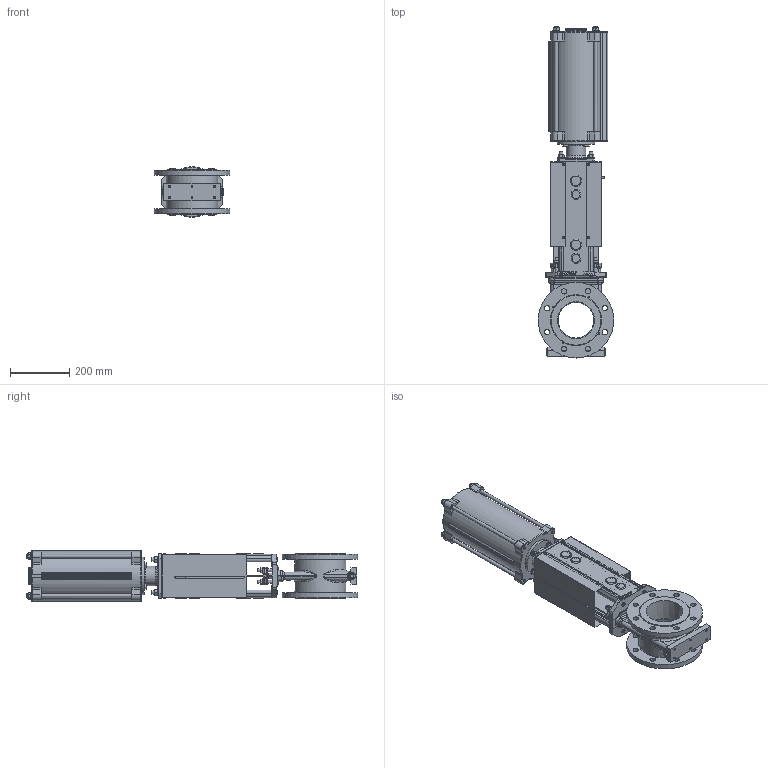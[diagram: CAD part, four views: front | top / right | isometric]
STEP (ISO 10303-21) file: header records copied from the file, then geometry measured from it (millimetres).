
FILE_DESCRIPTION(/* description */ ('','CAx-IF Rec.Pracs.---Representation and Presentation of Product Manufacturing Information (PMI)---4.0---2014-10-13'),/* implementation_level */ '2;1');
FILE_NAME(/* name */ 'F:\Emir\3D-block special\SLV\SLF-DN125-PN10-FRSC160-215_Shrinkwrap_1.stp',/* time_stamp */ '2018-09-04T13:34:30+02:00',/* author */ ('emimus'),/* organization */ (''),/* preprocessor_version */ 'ST-DEVELOPER v17.2',/* originating_system */ 'Autodesk Inventor 2019',/* authorisation */ '');
FILE_SCHEMA (('AP242_MANAGED_MODEL_BASED_3D_ENGINEERING_MIM_LF { 1 0 10303 442 1 1 4 }'));
Products named in the file (1): SLF-DN125-PN10-FRSC160-215_Shrinkwrap_1
Bounding box: 254 x 1116.5 x 170 mm (x, y, z)
Volume: 7603260 mm3; surface area: 2177926.6 mm2
Topology: 2 solids, 2 shells, 2842 faces, 7456 edges, 4750 vertices
Faces by surface type: plane 1164, cylinder 613, bspline 497, cone 284, torus 220, sphere 64
Full cylindrical faces by diameter (mm): 3 x8, 3.5 x8, 3.6 x8, 4 x6, 4.134 x12, 4.5 x4, 4.917 x4, 6 x1, 6.647 x6, 8 x2, 8.376 x2, 8.88 x1, 9.5 x4, 10 x23, 10.5 x4, 11.445 x2, 12 x30, 13 x13, 14.63 x4, 15 x2, 16 x2, 17.7 x1, 18 x20, 18.631 x2, 19 x4, 20 x5, 20.5 x1, 23 x4, 24 x12, 25.8 x2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
Entity records: 100321 total; most frequent: CARTESIAN_POINT 32410, ORIENTED_EDGE 14794, DIRECTION 13558, EDGE_CURVE 7397, AXIS2_PLACEMENT_3D 5281, VERTEX_POINT 4750, EDGE_LOOP 3185, LINE 2996
